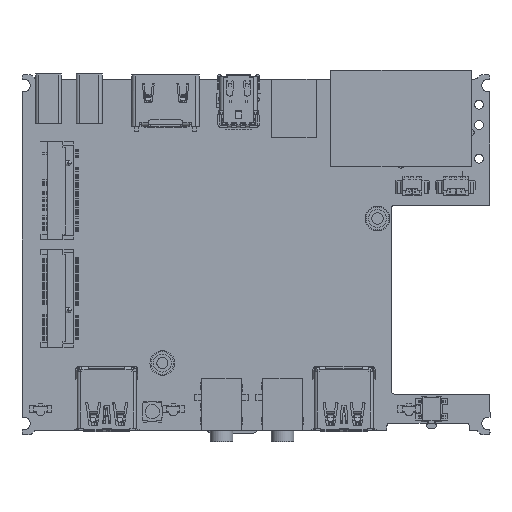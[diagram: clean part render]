
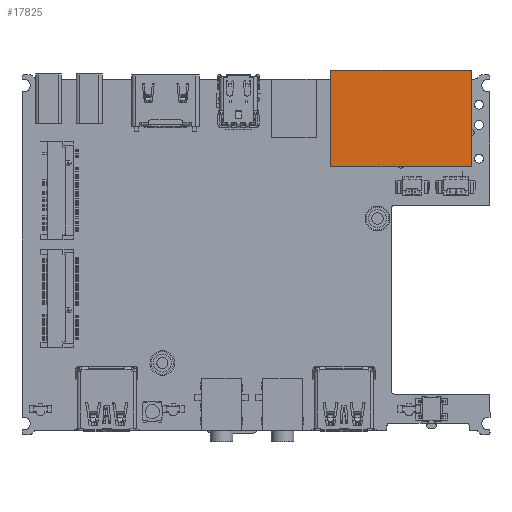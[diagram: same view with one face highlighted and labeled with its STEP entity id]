
A CAD part, front view. The second image highlights one B-rep face of the part: STEP entity #17825.
In plain terms, the highlighted planar face has unit normal (0, -1, 0).
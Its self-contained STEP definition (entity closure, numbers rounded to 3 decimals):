
#4857 = ORIENTED_EDGE ( 'NONE', *, *, #59135, .T. ) ;
#9262 = CARTESIAN_POINT ( 'NONE',  ( 47.86, -3.5, 19.55 ) ) ;
#17630 = CARTESIAN_POINT ( 'NONE',  ( 16.62, -3.5, 19.55 ) ) ;
#17825 = ADVANCED_FACE ( 'NONE', ( #107450 ), #166932, .T. ) ;
#20074 = DIRECTION ( 'NONE',  ( 1., 0., 0. ) ) ;
#20684 = CARTESIAN_POINT ( 'NONE',  ( 16.62, -3.5, 40.9 ) ) ;
#32714 = CARTESIAN_POINT ( 'NONE',  ( 47.86, -3.5, 40.9 ) ) ;
#39056 = VECTOR ( 'NONE', #77065, 1000. ) ;
#39808 = CARTESIAN_POINT ( 'NONE',  ( 47.86, -3.5, 19.55 ) ) ;
#42996 = VERTEX_POINT ( 'NONE', #20684 ) ;
#47559 = VECTOR ( 'NONE', #20074, 1000. ) ;
#48666 = VERTEX_POINT ( 'NONE', #84531 ) ;
#57815 = EDGE_LOOP ( 'NONE', ( #156428, #147314, #179252, #4857 ) ) ;
#59135 = EDGE_CURVE ( 'NONE', #150969, #164154, #175640, .T. ) ;
#67453 = EDGE_CURVE ( 'NONE', #42996, #164154, #183783, .T. ) ;
#76980 = AXIS2_PLACEMENT_3D ( 'NONE', #9262, #137125, #160956 ) ;
#77065 = DIRECTION ( 'NONE',  ( 0., 0., 1. ) ) ;
#84531 = CARTESIAN_POINT ( 'NONE',  ( 16.62, -3.5, 19.55 ) ) ;
#94610 = CARTESIAN_POINT ( 'NONE',  ( 47.86, -3.5, 40.9 ) ) ;
#103086 = VECTOR ( 'NONE', #110187, 1000. ) ;
#107450 = FACE_OUTER_BOUND ( 'NONE', #57815, .T. ) ;
#110187 = DIRECTION ( 'NONE',  ( 0., 0., 1. ) ) ;
#137125 = DIRECTION ( 'NONE',  ( 0., -1., 0. ) ) ;
#142442 = CARTESIAN_POINT ( 'NONE',  ( 47.86, -3.5, 19.55 ) ) ;
#147314 = ORIENTED_EDGE ( 'NONE', *, *, #150298, .F. ) ;
#147495 = EDGE_CURVE ( 'NONE', #48666, #150969, #160277, .T. ) ;
#148410 = DIRECTION ( 'NONE',  ( 1., 0., 0. ) ) ;
#150298 = EDGE_CURVE ( 'NONE', #48666, #42996, #154437, .T. ) ;
#150969 = VERTEX_POINT ( 'NONE', #39808 ) ;
#154437 = LINE ( 'NONE', #17630, #39056 ) ;
#156428 = ORIENTED_EDGE ( 'NONE', *, *, #67453, .F. ) ;
#157657 = CARTESIAN_POINT ( 'NONE',  ( 47.86, -3.5, 19.55 ) ) ;
#160277 = LINE ( 'NONE', #142442, #173352 ) ;
#160956 = DIRECTION ( 'NONE',  ( 0., 0., 1. ) ) ;
#164154 = VERTEX_POINT ( 'NONE', #32714 ) ;
#166932 = PLANE ( 'NONE',  #76980 ) ;
#173352 = VECTOR ( 'NONE', #148410, 1000. ) ;
#175640 = LINE ( 'NONE', #157657, #103086 ) ;
#179252 = ORIENTED_EDGE ( 'NONE', *, *, #147495, .T. ) ;
#183783 = LINE ( 'NONE', #94610, #47559 ) ;
